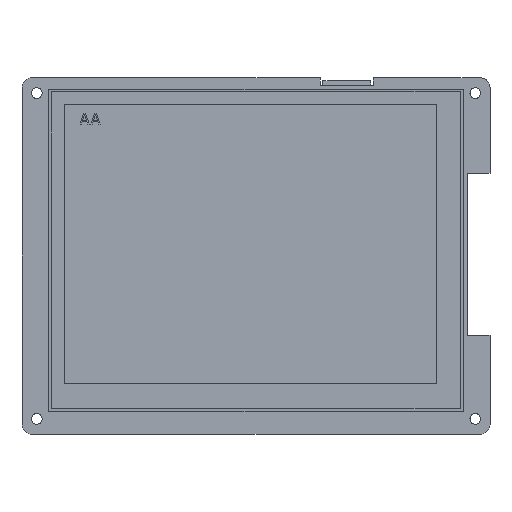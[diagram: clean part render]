
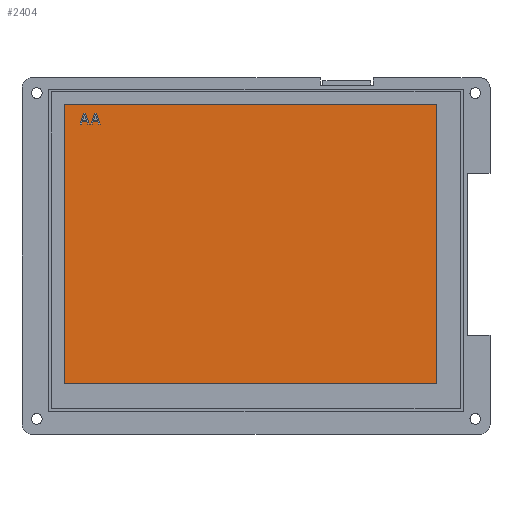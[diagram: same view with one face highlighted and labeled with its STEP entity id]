
A CAD part, top view. The second image highlights one B-rep face of the part: STEP entity #2404.
In plain terms, the highlighted planar face has unit normal (0, 0, 1).
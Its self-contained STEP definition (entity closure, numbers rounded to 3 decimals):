
#728=DIRECTION('',(0.,-1.,0.));
#729=VECTOR('',#728,86.4);
#730=CARTESIAN_POINT('',(13.536,102.367,11.25));
#731=LINE('',#730,#729);
#732=DIRECTION('',(-1.,0.,0.));
#733=VECTOR('',#732,115.2);
#734=CARTESIAN_POINT('',(128.736,102.367,11.25));
#735=LINE('',#734,#733);
#736=DIRECTION('',(0.,1.,0.));
#737=VECTOR('',#736,86.4);
#738=CARTESIAN_POINT('',(128.736,15.967,11.25));
#739=LINE('',#738,#737);
#740=DIRECTION('',(1.,0.,0.));
#741=VECTOR('',#740,115.2);
#742=CARTESIAN_POINT('',(13.536,15.967,11.25));
#743=LINE('',#742,#741);
#744=DIRECTION('',(0.316,0.949,0.));
#745=VECTOR('',#744,3.563);
#746=CARTESIAN_POINT('',(18.353,96.194,11.25));
#747=LINE('',#746,#745);
#752=DIRECTION('',(1.,0.,0.));
#753=VECTOR('',#752,0.563);
#754=CARTESIAN_POINT('',(19.479,99.574,11.25));
#755=LINE('',#754,#753);
#760=DIRECTION('',(0.316,-0.949,0.));
#761=VECTOR('',#760,3.563);
#762=CARTESIAN_POINT('',(20.043,99.574,11.25));
#763=LINE('',#762,#761);
#768=DIRECTION('',(-1.,0.,0.));
#769=VECTOR('',#768,0.423);
#770=CARTESIAN_POINT('',(21.169,96.194,11.25));
#771=LINE('',#770,#769);
#776=DIRECTION('',(-0.31,0.951,0.));
#777=VECTOR('',#776,0.908);
#778=CARTESIAN_POINT('',(20.747,96.194,11.25));
#779=LINE('',#778,#777);
#784=DIRECTION('',(-1.,0.,0.));
#785=VECTOR('',#784,1.408);
#786=CARTESIAN_POINT('',(20.465,97.057,11.25));
#787=LINE('',#786,#785);
#792=DIRECTION('',(-0.31,-0.951,0.));
#793=VECTOR('',#792,0.908);
#794=CARTESIAN_POINT('',(19.057,97.057,11.25));
#795=LINE('',#794,#793);
#800=DIRECTION('',(-1.,0.,0.));
#801=VECTOR('',#800,0.423);
#802=CARTESIAN_POINT('',(18.775,96.194,11.25));
#803=LINE('',#802,#801);
#808=DIRECTION('',(0.316,0.949,0.));
#809=VECTOR('',#808,3.563);
#810=CARTESIAN_POINT('',(21.733,96.194,11.25));
#811=LINE('',#810,#809);
#816=DIRECTION('',(1.,0.,0.));
#817=VECTOR('',#816,0.563);
#818=CARTESIAN_POINT('',(22.859,99.574,11.25));
#819=LINE('',#818,#817);
#824=DIRECTION('',(0.316,-0.949,0.));
#825=VECTOR('',#824,3.563);
#826=CARTESIAN_POINT('',(23.423,99.574,11.25));
#827=LINE('',#826,#825);
#832=DIRECTION('',(-1.,0.,0.));
#833=VECTOR('',#832,0.423);
#834=CARTESIAN_POINT('',(24.549,96.194,11.25));
#835=LINE('',#834,#833);
#840=DIRECTION('',(-0.31,0.951,0.));
#841=VECTOR('',#840,0.908);
#842=CARTESIAN_POINT('',(24.127,96.194,11.25));
#843=LINE('',#842,#841);
#848=DIRECTION('',(-1.,0.,0.));
#849=VECTOR('',#848,1.408);
#850=CARTESIAN_POINT('',(23.845,97.057,11.25));
#851=LINE('',#850,#849);
#856=DIRECTION('',(-0.31,-0.951,0.));
#857=VECTOR('',#856,0.908);
#858=CARTESIAN_POINT('',(22.437,97.057,11.25));
#859=LINE('',#858,#857);
#864=DIRECTION('',(-1.,0.,0.));
#865=VECTOR('',#864,0.423);
#866=CARTESIAN_POINT('',(22.155,96.194,11.25));
#867=LINE('',#866,#865);
#1384=CARTESIAN_POINT('',(13.536,102.367,11.25));
#1385=CARTESIAN_POINT('',(13.536,15.967,11.25));
#1386=VERTEX_POINT('',#1384);
#1387=VERTEX_POINT('',#1385);
#1388=CARTESIAN_POINT('',(128.736,15.967,11.25));
#1389=VERTEX_POINT('',#1388);
#1390=CARTESIAN_POINT('',(128.736,102.367,11.25));
#1391=VERTEX_POINT('',#1390);
#1400=CARTESIAN_POINT('',(18.353,96.194,11.25));
#1401=CARTESIAN_POINT('',(19.479,99.574,11.25));
#1402=VERTEX_POINT('',#1400);
#1403=VERTEX_POINT('',#1401);
#1404=CARTESIAN_POINT('',(20.043,99.574,11.25));
#1405=VERTEX_POINT('',#1404);
#1406=CARTESIAN_POINT('',(21.169,96.194,11.25));
#1407=VERTEX_POINT('',#1406);
#1408=CARTESIAN_POINT('',(20.747,96.194,11.25));
#1409=VERTEX_POINT('',#1408);
#1410=CARTESIAN_POINT('',(20.465,97.057,11.25));
#1411=VERTEX_POINT('',#1410);
#1412=CARTESIAN_POINT('',(19.057,97.057,11.25));
#1413=VERTEX_POINT('',#1412);
#1414=CARTESIAN_POINT('',(18.775,96.194,11.25));
#1415=VERTEX_POINT('',#1414);
#1416=CARTESIAN_POINT('',(21.733,96.194,11.25));
#1417=CARTESIAN_POINT('',(22.859,99.574,11.25));
#1418=VERTEX_POINT('',#1416);
#1419=VERTEX_POINT('',#1417);
#1420=CARTESIAN_POINT('',(23.423,99.574,11.25));
#1421=VERTEX_POINT('',#1420);
#1422=CARTESIAN_POINT('',(24.549,96.194,11.25));
#1423=VERTEX_POINT('',#1422);
#1424=CARTESIAN_POINT('',(24.127,96.194,11.25));
#1425=VERTEX_POINT('',#1424);
#1426=CARTESIAN_POINT('',(23.845,97.057,11.25));
#1427=VERTEX_POINT('',#1426);
#1428=CARTESIAN_POINT('',(22.437,97.057,11.25));
#1429=VERTEX_POINT('',#1428);
#1430=CARTESIAN_POINT('',(22.155,96.194,11.25));
#1431=VERTEX_POINT('',#1430);
#2357=CARTESIAN_POINT('',(0.,0.,11.25));
#2358=DIRECTION('',(0.,0.,1.));
#2359=DIRECTION('',(1.,0.,0.));
#2360=AXIS2_PLACEMENT_3D('',#2357,#2358,#2359);
#2361=PLANE('',#2360);
#2362=ORIENTED_EDGE('',*,*,#2309,.F.);
#2363=ORIENTED_EDGE('',*,*,#2324,.F.);
#2364=ORIENTED_EDGE('',*,*,#2338,.F.);
#2365=ORIENTED_EDGE('',*,*,#2351,.F.);
#2366=EDGE_LOOP('',(#2362,#2363,#2364,#2365));
#2367=FACE_OUTER_BOUND('',#2366,.F.);
#2369=ORIENTED_EDGE('',*,*,#2368,.F.);
#2371=ORIENTED_EDGE('',*,*,#2370,.F.);
#2373=ORIENTED_EDGE('',*,*,#2372,.F.);
#2375=ORIENTED_EDGE('',*,*,#2374,.F.);
#2377=ORIENTED_EDGE('',*,*,#2376,.F.);
#2379=ORIENTED_EDGE('',*,*,#2378,.F.);
#2381=ORIENTED_EDGE('',*,*,#2380,.F.);
#2383=ORIENTED_EDGE('',*,*,#2382,.F.);
#2384=EDGE_LOOP('',(#2369,#2371,#2373,#2375,#2377,#2379,#2381,#2383));
#2385=FACE_BOUND('',#2384,.F.);
#2387=ORIENTED_EDGE('',*,*,#2386,.F.);
#2389=ORIENTED_EDGE('',*,*,#2388,.F.);
#2391=ORIENTED_EDGE('',*,*,#2390,.F.);
#2393=ORIENTED_EDGE('',*,*,#2392,.F.);
#2395=ORIENTED_EDGE('',*,*,#2394,.F.);
#2397=ORIENTED_EDGE('',*,*,#2396,.F.);
#2399=ORIENTED_EDGE('',*,*,#2398,.F.);
#2401=ORIENTED_EDGE('',*,*,#2400,.F.);
#2402=EDGE_LOOP('',(#2387,#2389,#2391,#2393,#2395,#2397,#2399,#2401));
#2403=FACE_BOUND('',#2402,.F.);
#2309=EDGE_CURVE('',#1386,#1387,#731,.T.);
#2324=EDGE_CURVE('',#1391,#1386,#735,.T.);
#2338=EDGE_CURVE('',#1389,#1391,#739,.T.);
#2351=EDGE_CURVE('',#1387,#1389,#743,.T.);
#2368=EDGE_CURVE('',#1402,#1403,#747,.T.);
#2370=EDGE_CURVE('',#1415,#1402,#803,.T.);
#2372=EDGE_CURVE('',#1413,#1415,#795,.T.);
#2374=EDGE_CURVE('',#1411,#1413,#787,.T.);
#2376=EDGE_CURVE('',#1409,#1411,#779,.T.);
#2378=EDGE_CURVE('',#1407,#1409,#771,.T.);
#2380=EDGE_CURVE('',#1405,#1407,#763,.T.);
#2382=EDGE_CURVE('',#1403,#1405,#755,.T.);
#2386=EDGE_CURVE('',#1418,#1419,#811,.T.);
#2388=EDGE_CURVE('',#1431,#1418,#867,.T.);
#2390=EDGE_CURVE('',#1429,#1431,#859,.T.);
#2392=EDGE_CURVE('',#1427,#1429,#851,.T.);
#2394=EDGE_CURVE('',#1425,#1427,#843,.T.);
#2396=EDGE_CURVE('',#1423,#1425,#835,.T.);
#2398=EDGE_CURVE('',#1421,#1423,#827,.T.);
#2400=EDGE_CURVE('',#1419,#1421,#819,.T.);
#2404=ADVANCED_FACE('',(#2367,#2385,#2403),#2361,.T.);
